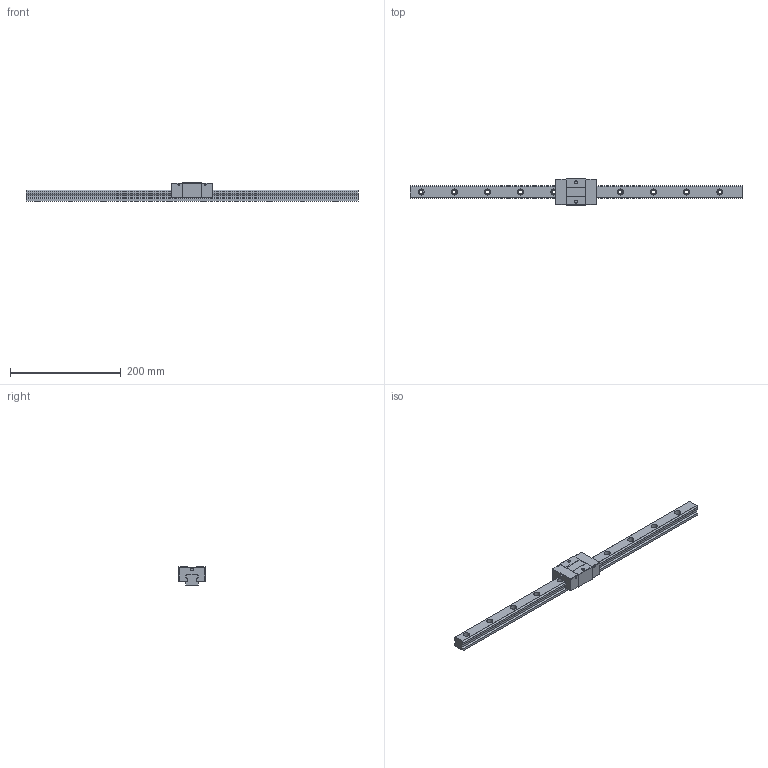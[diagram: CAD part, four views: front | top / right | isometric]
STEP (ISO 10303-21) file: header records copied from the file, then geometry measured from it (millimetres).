
FILE_DESCRIPTION (( 'STEP AP203' ), '1' );
FILE_NAME ('TRS25VS-DU.STEP', '2024-07-12T02:24:30', ( '' ), ( '' ), 'SwSTEP 2.0', 'SolidWorks 2022', '' );
FILE_SCHEMA (( 'CONFIG_CONTROL_DESIGN' ));
Length unit declared in the file: millimetre
Products named in the file (1): TRS25VS-DU
Bounding box: 600 x 48 x 33 mm (x, y, z)
Volume: 305863 mm3; surface area: 74911.7 mm2
Topology: 2 solids, 2 shells, 186 faces, 484 edges, 320 vertices
Faces by surface type: plane 94, cylinder 92
Entity records: 5863 total; most frequent: DIRECTION 1042, CARTESIAN_POINT 991, ORIENTED_EDGE 968, EDGE_CURVE 484, AXIS2_PLACEMENT_3D 371, VERTEX_POINT 320, VECTOR 300, LINE 300
